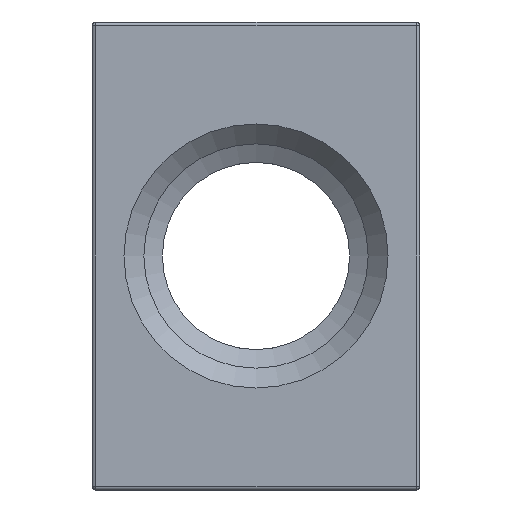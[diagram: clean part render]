
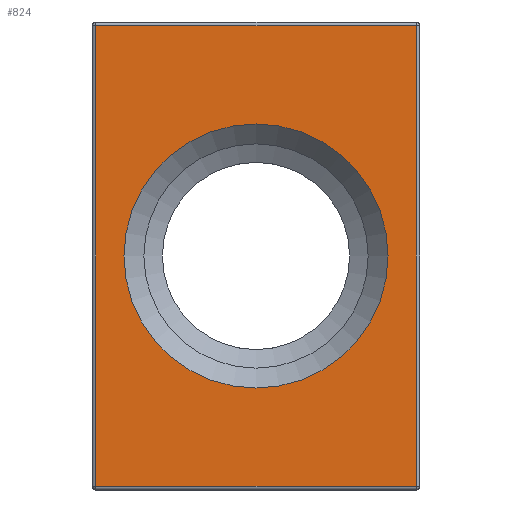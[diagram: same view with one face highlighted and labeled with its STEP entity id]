
A CAD part, left-side view. The second image highlights one B-rep face of the part: STEP entity #824.
In plain terms, the highlighted planar face has unit normal (-1, 0, 0).
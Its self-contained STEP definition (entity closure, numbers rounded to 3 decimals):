
#40=FACE_BOUND('',#258,.T.);
#52=PLANE('',#924);
#58=LINE('',#1309,#107);
#64=LINE('',#1339,#113);
#68=LINE('',#1345,#117);
#70=LINE('',#1348,#119);
#107=VECTOR('',#1036,10.);
#113=VECTOR('',#1072,10.);
#117=VECTOR('',#1080,10.);
#119=VECTOR('',#1084,10.);
#201=FACE_OUTER_BOUND('',#257,.T.);
#257=EDGE_LOOP('',(#640,#641,#642,#643));
#258=EDGE_LOOP('',(#644));
#323=CIRCLE('',#925,11.286);
#361=VERTEX_POINT('',#1277);
#372=VERTEX_POINT('',#1304);
#375=VERTEX_POINT('',#1314);
#379=VERTEX_POINT('',#1331);
#387=VERTEX_POINT('',#1375);
#448=EDGE_CURVE('',#361,#372,#58,.T.);
#463=EDGE_CURVE('',#379,#375,#64,.T.);
#467=EDGE_CURVE('',#372,#379,#68,.T.);
#469=EDGE_CURVE('',#375,#361,#70,.T.);
#483=EDGE_CURVE('',#387,#387,#323,.T.);
#640=ORIENTED_EDGE('',*,*,#463,.F.);
#641=ORIENTED_EDGE('',*,*,#467,.F.);
#642=ORIENTED_EDGE('',*,*,#448,.F.);
#643=ORIENTED_EDGE('',*,*,#469,.F.);
#644=ORIENTED_EDGE('',*,*,#483,.F.);
#824=ADVANCED_FACE('',(#201,#40),#52,.T.);
#924=AXIS2_PLACEMENT_3D('',#1374,#1117,#1118);
#925=AXIS2_PLACEMENT_3D('',#1376,#1119,#1120);
#1036=DIRECTION('',(0.,1.,0.));
#1072=DIRECTION('',(0.,-1.,0.));
#1080=DIRECTION('',(0.,0.,1.));
#1084=DIRECTION('',(0.,0.,-1.));
#1117=DIRECTION('center_axis',(-1.,0.,0.));
#1118=DIRECTION('ref_axis',(0.,0.,1.));
#1119=DIRECTION('center_axis',(-1.,0.,0.));
#1120=DIRECTION('ref_axis',(0.,1.,0.));
#1277=CARTESIAN_POINT('',(-45.,-13.7,-19.7));
#1304=CARTESIAN_POINT('',(-45.,13.7,-19.7));
#1309=CARTESIAN_POINT('',(-45.,0.,-19.7));
#1314=CARTESIAN_POINT('',(-45.,-13.7,19.7));
#1331=CARTESIAN_POINT('',(-45.,13.7,19.7));
#1339=CARTESIAN_POINT('',(-45.,0.,19.7));
#1345=CARTESIAN_POINT('',(-45.,13.7,-10.));
#1348=CARTESIAN_POINT('',(-45.,-13.7,-10.));
#1374=CARTESIAN_POINT('Origin',(-45.,0.,-20.));
#1375=CARTESIAN_POINT('',(-45.,-11.286,0.));
#1376=CARTESIAN_POINT('Origin',(-45.,0.,0.));
